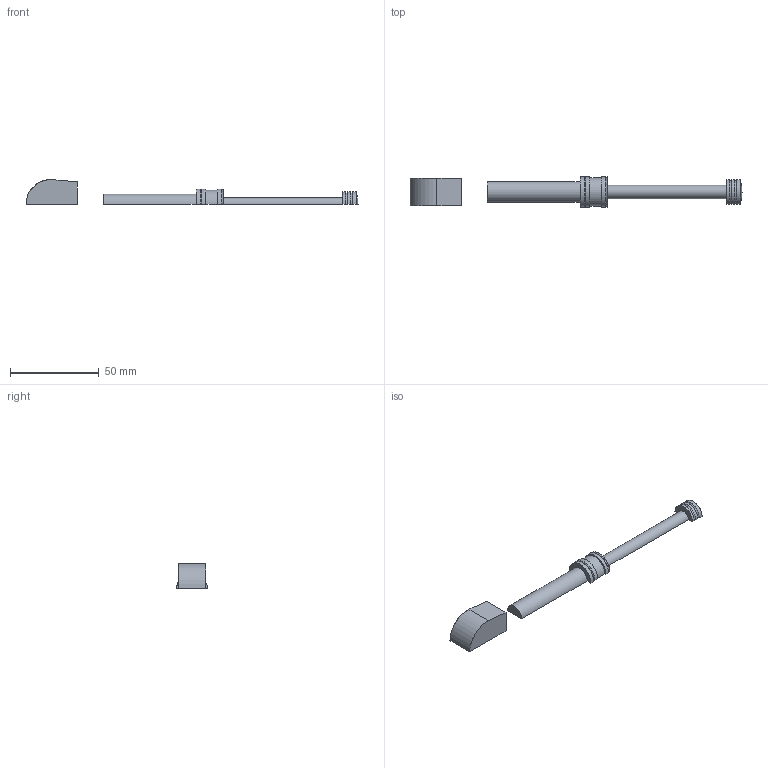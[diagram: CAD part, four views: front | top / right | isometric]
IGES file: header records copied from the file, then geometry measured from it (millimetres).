
Start section: START RECORD GO HERE.
Global section: file name: G:\Pieces_CATIA\cle_cliquet.igs; native system: IBM CATIA IGES - CATIA Version 5 Release 9 ; preprocessor: CATIA Version 5 Release 9 ; organization: DASSAULT SYSTEMES; date: 20020619.134812; units: millimetre
Bounding box: 187.45 x 17.22 x 13.97 mm (x, y, z)
Surface area: 4242.8 mm2 (no closed solid volume)
Topology: 0 solids, 0 shells, 25 faces, 97 edges, 97 vertices
Faces by surface type: revolution 15, plane 10
